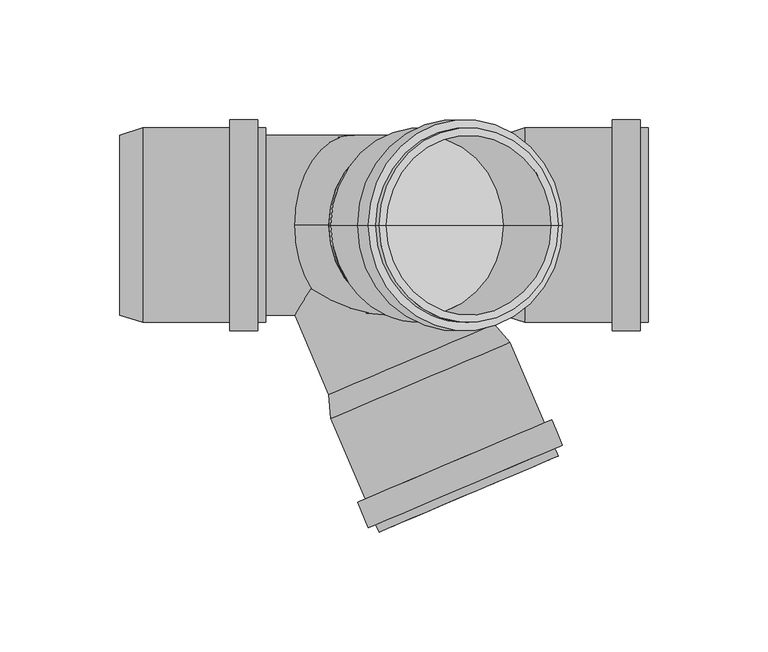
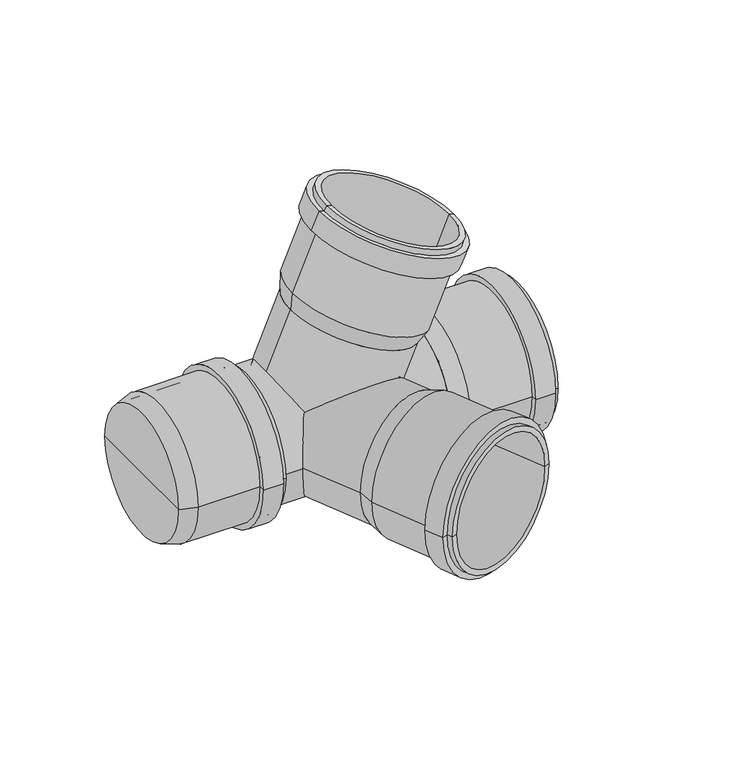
"""IFC4 building model written with IfcOpenShell, lengths in millimetres: pipe fitting geometry, pf_HTED : pf_HTED."""

from ifc_helpers import new_model, si_unit, point, frame, origin, origin_2d, place, context, project, spatial, polyline, circle_curve, trimmed, segment, composite_curve, outline, extrude, source, transform, mapped, element, save
from ifc_brep_helpers import plane_surface, cylinder_surface, revolved_surface, advanced_brep


def pipe_fitting_9d3bda9e(model_context):
    return source(origin(), model_context, "Body", "SolidModel", [
        advanced_brep(
        [(58.3144577, 0.0, 41.4063283), (-10.7234063, 0.0, 70.7111629), (-9.8650256, 0.0, 80.6672255), (64.8799685, 0.0, 48.9398579), (23.7955257, 0.0, 56.0587456), (85.0026216, 0.0, 96.3458578), (10.2576275, 0.0, 128.0732255), (13.1111926, 0.0, 126.861959), (82.1490566, 0.0, 97.5571243), (83.6741358, 0.0, 93.2161413), (8.9291417, 0.0, 124.943509), (86.8038523, 0.0, 91.8876555), (5.7994252, 0.0, 126.2719948), (82.2713712, 0.0, 81.2097992), (1.2669441, 0.0, 115.5941385), (79.1416547, 0.0, 82.538285), (4.3966606, 0.0, 114.2656527), (62.0264035, 0.0, 50.1511244), (-7.0114606, 0.0, 79.455959), (27.5074714, 0.0, 64.8035417)],
        [
            (0, 1, circle_curve(frame((23.7955257, 0.0, 56.0587456), z_axis=(0.3907311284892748, 0.0, 0.9205048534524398), x_axis=(-0.9205048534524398, 0.0, 0.3907311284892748)), 37.5)),
            (1, 2),
            (2, 3, circle_curve(frame((27.5074714, 0.0, 64.8035417), z_axis=(-0.3907311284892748, 0.0, -0.9205048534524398), x_axis=(-0.9205048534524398, 0.0, 0.3907311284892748)), 40.6)),
            (3, 0),
            (1, 0, circle_curve(frame((23.7955257, 0.0, 56.0587456), z_axis=(0.3907311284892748, 0.0, 0.9205048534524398), x_axis=(-0.9205048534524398, 0.0, 0.3907311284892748)), 37.5)),
            (3, 2, circle_curve(frame((27.5074714, 0.0, 64.8035417), z_axis=(-0.3907311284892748, 0.0, -0.9205048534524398), x_axis=(-0.9205048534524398, 0.0, 0.3907311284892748)), 40.6)),
            (4, 1),
            (0, 4),
            (5, 6, circle_curve(frame((47.6301246, 0.0, 112.2095416), z_axis=(0.3907311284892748, 0.0, 0.9205048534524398), x_axis=(-0.9205048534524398, 0.0, 0.3907311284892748)), 40.6)),
            (6, 7),
            (7, 8, circle_curve(frame((47.6301246, 0.0, 112.2095416), z_axis=(-0.3907311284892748, 0.0, -0.9205048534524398), x_axis=(-0.9205048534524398, 0.0, 0.3907311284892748)), 37.5)),
            (8, 5),
            (6, 5, circle_curve(frame((47.6301246, 0.0, 112.2095416), z_axis=(0.3907311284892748, 0.0, 0.9205048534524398), x_axis=(-0.9205048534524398, 0.0, 0.3907311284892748)), 40.6)),
            (8, 7, circle_curve(frame((47.6301246, 0.0, 112.2095416), z_axis=(-0.3907311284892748, 0.0, -0.9205048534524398), x_axis=(-0.9205048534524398, 0.0, 0.3907311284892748)), 37.5)),
            (9, 10, circle_curve(frame((46.3016387, 0.0, 109.0798251), z_axis=(0.3907311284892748, 0.0, 0.9205048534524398), x_axis=(-0.9205048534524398, 0.0, 0.3907311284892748)), 40.6)),
            (10, 6),
            (5, 9),
            (10, 9, circle_curve(frame((46.3016387, 0.0, 109.0798251), z_axis=(0.3907311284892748, 0.0, 0.9205048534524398), x_axis=(-0.9205048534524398, 0.0, 0.3907311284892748)), 40.6)),
            (11, 12, circle_curve(frame((46.3016387, 0.0, 109.0798251), z_axis=(0.3907311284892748, 0.0, 0.9205048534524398), x_axis=(-0.9205048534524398, 0.0, 0.3907311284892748)), 44.0)),
            (12, 10),
            (9, 11),
            (12, 11, circle_curve(frame((46.3016387, 0.0, 109.0798251), z_axis=(0.3907311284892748, 0.0, 0.9205048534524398), x_axis=(-0.9205048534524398, 0.0, 0.3907311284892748)), 44.0)),
            (13, 14, circle_curve(frame((41.7691576, 0.0, 98.4019688), z_axis=(0.3907311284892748, 0.0, 0.9205048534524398), x_axis=(-0.9205048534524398, 0.0, 0.3907311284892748)), 44.0)),
            (14, 12),
            (11, 13),
            (14, 13, circle_curve(frame((41.7691576, 0.0, 98.4019688), z_axis=(0.3907311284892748, 0.0, 0.9205048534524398), x_axis=(-0.9205048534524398, 0.0, 0.3907311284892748)), 44.0)),
            (15, 16, circle_curve(frame((41.7691576, 0.0, 98.4019688), z_axis=(0.3907311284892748, 0.0, 0.9205048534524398), x_axis=(-0.9205048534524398, 0.0, 0.3907311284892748)), 40.6)),
            (16, 14),
            (13, 15),
            (16, 15, circle_curve(frame((41.7691576, 0.0, 98.4019688), z_axis=(0.3907311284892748, 0.0, 0.9205048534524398), x_axis=(-0.9205048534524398, 0.0, 0.3907311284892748)), 40.6)),
            (2, 16),
            (15, 3),
            (17, 18, circle_curve(frame((27.5074714, 0.0, 64.8035417), z_axis=(0.3907311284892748, 0.0, 0.9205048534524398), x_axis=(-0.9205048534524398, 0.0, 0.3907311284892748)), 37.5)),
            (18, 19),
            (19, 17),
            (18, 17, circle_curve(frame((27.5074714, 0.0, 64.8035417), z_axis=(0.3907311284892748, 0.0, 0.9205048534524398), x_axis=(-0.9205048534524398, 0.0, 0.3907311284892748)), 37.5)),
            (7, 18),
            (17, 8),
        ],
        [
            revolved_surface(polyline([(-9.8650256, 0.0, 80.6672255), (-10.7234063, 0.0, 70.7111629)]), (23.7955257, 0.0, 56.0587456), (-0.3907311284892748, 0.0, -0.9205048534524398)),
            plane_surface(frame((23.7955257, 0.0, 56.0587456), z_axis=(-0.3907311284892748, 0.0, -0.9205048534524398), x_axis=(-0.9205048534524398, 0.0, 0.3907311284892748))),
            plane_surface(frame((47.6301246, 0.0, 112.2095416), z_axis=(0.3907311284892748, 0.0, 0.9205048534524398), x_axis=(-0.9205048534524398, 0.0, 0.3907311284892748))),
            cylinder_surface(frame((23.7955257, 0.0, 56.0587456), z_axis=(-0.3907311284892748, 0.0, -0.9205048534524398), x_axis=(-0.9205048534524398, 0.0, 0.3907311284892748)), 40.6),
            plane_surface(frame((46.3016387, 0.0, 109.0798251), z_axis=(0.3907311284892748, 0.0, 0.9205048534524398), x_axis=(-0.9205048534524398, 0.0, 0.3907311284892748))),
            cylinder_surface(frame((23.7955257, 0.0, 56.0587456), z_axis=(-0.3907311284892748, 0.0, -0.9205048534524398), x_axis=(-0.9205048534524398, 0.0, 0.3907311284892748)), 44.0),
            plane_surface(frame((41.7691576, 0.0, 98.4019688), z_axis=(-0.3907311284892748, 0.0, -0.9205048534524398), x_axis=(-0.9205048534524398, 0.0, 0.3907311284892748))),
            plane_surface(frame((27.5074714, 0.0, 64.8035417), z_axis=(0.3907311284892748, 0.0, 0.9205048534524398), x_axis=(-0.9205048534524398, 0.0, 0.3907311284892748))),
            revolved_surface(polyline([(-7.011460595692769, 0.0, 79.45595899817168), (13.111192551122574, 0.0, 126.86195902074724)]), (23.7955257, 0.0, 56.0587456), (-0.3907311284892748, 0.0, -0.9205048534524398)),
        ],
        [
            (0, [[1, 2, 3, 4]]),
            (0, [[5, -4, 6, -2]]),
            (1, [[7, -1, 8]]),
            (1, [[-8, -5, -7]]),
            (2, [[9, 10, 11, 12]]),
            (2, [[13, -12, 14, -10]]),
            (3, [[15, 16, -9, 17]]),
            (3, [[18, -17, -13, -16]]),
            (4, [[19, 20, -15, 21]]),
            (4, [[22, -21, -18, -20]]),
            (5, [[23, 24, -19, 25]]),
            (5, [[26, -25, -22, -24]]),
            (6, [[27, 28, -23, 29]]),
            (6, [[30, -29, -26, -28]]),
            (3, [[-3, 31, -27, 32]]),
            (3, [[-6, -32, -30, -31]]),
            (7, [[33, 34, 35]]),
            (7, [[36, -35, -34]]),
            (8, [[-11, 37, -33, 38]]),
            (8, [[-14, -38, -36, -37]]),
        ],
    ),
        advanced_brep(
        [(-10.7234063, -70.7111629, 0.0), (58.3144577, -41.4063283, 0.0), (64.8799685, -48.9398579, 0.0), (-9.8650256, -80.6672255, 0.0), (23.7955257, -56.0587456, 0.0), (10.2576275, -128.0732255, 0.0), (85.0026216, -96.3458578, 0.0), (82.1490566, -97.5571243, 0.0), (13.1111926, -126.861959, 0.0), (8.9291417, -124.943509, 0.0), (83.6741358, -93.2161413, 0.0), (5.7994252, -126.2719948, 0.0), (86.8038523, -91.8876555, 0.0), (1.2669441, -115.5941385, 0.0), (82.2713712, -81.2097992, 0.0), (4.3966606, -114.2656527, 0.0), (79.1416547, -82.538285, 0.0), (-7.0114606, -79.455959, 0.0), (62.0264035, -50.1511244, 0.0), (27.5074714, -64.8035417, 0.0)],
        [
            (0, 1, circle_curve(frame((23.7955257, -56.0587456, 0.0), z_axis=(0.3907311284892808, -0.9205048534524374, 0.0), x_axis=(0.9205048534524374, 0.3907311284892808, 0.0)), 37.5)),
            (1, 2),
            (2, 3, circle_curve(frame((27.5074714, -64.8035417, 0.0), z_axis=(-0.3907311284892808, 0.9205048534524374, 0.0), x_axis=(0.9205048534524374, 0.3907311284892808, 0.0)), 40.6)),
            (3, 0),
            (1, 0, circle_curve(frame((23.7955257, -56.0587456, 0.0), z_axis=(0.3907311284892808, -0.9205048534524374, 0.0), x_axis=(0.9205048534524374, 0.3907311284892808, 0.0)), 37.5)),
            (3, 2, circle_curve(frame((27.5074714, -64.8035417, 0.0), z_axis=(-0.3907311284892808, 0.9205048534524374, 0.0), x_axis=(0.9205048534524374, 0.3907311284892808, 0.0)), 40.6)),
            (4, 1),
            (0, 4),
            (5, 6, circle_curve(frame((47.6301246, -112.2095416, 0.0), z_axis=(0.3907311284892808, -0.9205048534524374, 0.0), x_axis=(0.9205048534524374, 0.3907311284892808, 0.0)), 40.6)),
            (6, 7),
            (7, 8, circle_curve(frame((47.6301246, -112.2095416, 0.0), z_axis=(-0.3907311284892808, 0.9205048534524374, 0.0), x_axis=(0.9205048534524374, 0.3907311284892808, 0.0)), 37.5)),
            (8, 5),
            (6, 5, circle_curve(frame((47.6301246, -112.2095416, 0.0), z_axis=(0.3907311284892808, -0.9205048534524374, 0.0), x_axis=(0.9205048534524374, 0.3907311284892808, 0.0)), 40.6)),
            (8, 7, circle_curve(frame((47.6301246, -112.2095416, 0.0), z_axis=(-0.3907311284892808, 0.9205048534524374, 0.0), x_axis=(0.9205048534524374, 0.3907311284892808, 0.0)), 37.5)),
            (9, 10, circle_curve(frame((46.3016387, -109.0798251, 0.0), z_axis=(0.3907311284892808, -0.9205048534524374, 0.0), x_axis=(0.9205048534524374, 0.3907311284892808, 0.0)), 40.6)),
            (10, 6),
            (5, 9),
            (10, 9, circle_curve(frame((46.3016387, -109.0798251, 0.0), z_axis=(0.3907311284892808, -0.9205048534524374, 0.0), x_axis=(0.9205048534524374, 0.3907311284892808, 0.0)), 40.6)),
            (11, 12, circle_curve(frame((46.3016387, -109.0798251, 0.0), z_axis=(0.3907311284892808, -0.9205048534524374, 0.0), x_axis=(0.9205048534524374, 0.3907311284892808, 0.0)), 44.0)),
            (12, 10),
            (9, 11),
            (12, 11, circle_curve(frame((46.3016387, -109.0798251, 0.0), z_axis=(0.3907311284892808, -0.9205048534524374, 0.0), x_axis=(0.9205048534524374, 0.3907311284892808, 0.0)), 44.0)),
            (13, 14, circle_curve(frame((41.7691576, -98.4019688, 0.0), z_axis=(0.3907311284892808, -0.9205048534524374, 0.0), x_axis=(0.9205048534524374, 0.3907311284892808, 0.0)), 44.0)),
            (14, 12),
            (11, 13),
            (14, 13, circle_curve(frame((41.7691576, -98.4019688, 0.0), z_axis=(0.3907311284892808, -0.9205048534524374, 0.0), x_axis=(0.9205048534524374, 0.3907311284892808, 0.0)), 44.0)),
            (15, 16, circle_curve(frame((41.7691576, -98.4019688, 0.0), z_axis=(0.3907311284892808, -0.9205048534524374, 0.0), x_axis=(0.9205048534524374, 0.3907311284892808, 0.0)), 40.6)),
            (16, 14),
            (13, 15),
            (16, 15, circle_curve(frame((41.7691576, -98.4019688, 0.0), z_axis=(0.3907311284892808, -0.9205048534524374, 0.0), x_axis=(0.9205048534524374, 0.3907311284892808, 0.0)), 40.6)),
            (2, 16),
            (15, 3),
            (17, 18, circle_curve(frame((27.5074714, -64.8035417, 0.0), z_axis=(0.3907311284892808, -0.9205048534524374, 0.0), x_axis=(0.9205048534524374, 0.3907311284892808, 0.0)), 37.5)),
            (18, 19),
            (19, 17),
            (18, 17, circle_curve(frame((27.5074714, -64.8035417, 0.0), z_axis=(0.3907311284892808, -0.9205048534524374, 0.0), x_axis=(0.9205048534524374, 0.3907311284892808, 0.0)), 37.5)),
            (7, 18),
            (17, 8),
        ],
        [
            revolved_surface(polyline([(64.8799685, -48.9398579, 0.0), (58.3144577, -41.4063283, 0.0)]), (23.7955257, -56.0587456, 0.0), (-0.3907311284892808, 0.9205048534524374, 0.0)),
            plane_surface(frame((23.7955257, -56.0587456, 0.0), z_axis=(-0.3907311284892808, 0.9205048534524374, 0.0), x_axis=(0.9205048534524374, 0.3907311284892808, 0.0))),
            plane_surface(frame((47.6301246, -112.2095416, 0.0), z_axis=(0.3907311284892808, -0.9205048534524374, 0.0), x_axis=(0.9205048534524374, 0.3907311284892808, 0.0))),
            cylinder_surface(frame((23.7955257, -56.0587456, 0.0), z_axis=(-0.3907311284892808, 0.9205048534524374, 0.0), x_axis=(0.9205048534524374, 0.3907311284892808, 0.0)), 40.6),
            plane_surface(frame((46.3016387, -109.0798251, 0.0), z_axis=(0.3907311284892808, -0.9205048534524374, 0.0), x_axis=(0.9205048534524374, 0.3907311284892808, 0.0))),
            cylinder_surface(frame((23.7955257, -56.0587456, 0.0), z_axis=(-0.3907311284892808, 0.9205048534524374, 0.0), x_axis=(0.9205048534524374, 0.3907311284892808, 0.0)), 44.0),
            plane_surface(frame((41.7691576, -98.4019688, 0.0), z_axis=(-0.3907311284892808, 0.9205048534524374, 0.0), x_axis=(0.9205048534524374, 0.3907311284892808, 0.0))),
            plane_surface(frame((27.5074714, -64.8035417, 0.0), z_axis=(0.3907311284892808, -0.9205048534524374, 0.0), x_axis=(0.9205048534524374, 0.3907311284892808, 0.0))),
            revolved_surface(polyline([(62.02640341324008, -50.151124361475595, 0.0), (82.14905656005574, -97.55712438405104, 0.0)]), (23.7955257, -56.0587456, 0.0), (-0.3907311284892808, 0.9205048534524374, 0.0)),
        ],
        [
            (0, [[1, 2, 3, 4]]),
            (0, [[5, -4, 6, -2]]),
            (1, [[7, -1, 8]]),
            (1, [[-8, -5, -7]]),
            (2, [[9, 10, 11, 12]]),
            (2, [[13, -12, 14, -10]]),
            (3, [[15, 16, -9, 17]]),
            (3, [[18, -17, -13, -16]]),
            (4, [[19, 20, -15, 21]]),
            (4, [[22, -21, -18, -20]]),
            (5, [[23, 24, -19, 25]]),
            (5, [[26, -25, -22, -24]]),
            (6, [[27, 28, -23, 29]]),
            (6, [[30, -29, -26, -28]]),
            (3, [[-3, 31, -27, 32]]),
            (3, [[-6, -32, -30, -31]]),
            (7, [[33, 34, 35]]),
            (7, [[36, -35, -34]]),
            (8, [[-11, 37, -33, 38]]),
            (8, [[-14, -38, -36, -37]]),
        ],
    ),
        advanced_brep(
        [(61.6, -37.5, 0.0), (61.6, 37.5, 0.0), (71.1, 40.6, 0.0), (71.1, -40.6, 0.0), (61.6, 0.0, 0.0), (122.6, -40.6, 0.0), (122.6, 40.6, 0.0), (122.6, 37.5, 0.0), (122.6, -37.5, 0.0), (119.2, -40.6, 0.0), (119.2, 40.6, 0.0), (119.2, -44.0, 0.0), (119.2, 44.0, 0.0), (107.6, -44.0, 0.0), (107.6, 44.0, 0.0), (107.6, -40.6, 0.0), (107.6, 40.6, 0.0), (71.1, -37.5, 0.0), (71.1, 37.5, 0.0), (71.1, 0.0, 0.0)],
        [
            (0, 1, circle_curve(frame((61.6, 0.0, 0.0), z_axis=(1.0, 0.0, 0.0), x_axis=(0.0, 1.0, 0.0)), 37.5)),
            (1, 2),
            (2, 3, circle_curve(frame((71.1, 0.0, 0.0), z_axis=(-1.0, 0.0, 0.0), x_axis=(0.0, 1.0, 0.0)), 40.6)),
            (3, 0),
            (1, 0, circle_curve(frame((61.6, 0.0, 0.0), z_axis=(1.0, 0.0, 0.0), x_axis=(0.0, 1.0, 0.0)), 37.5)),
            (3, 2, circle_curve(frame((71.1, 0.0, 0.0), z_axis=(-1.0, 0.0, 0.0), x_axis=(0.0, 1.0, 0.0)), 40.6)),
            (4, 1),
            (0, 4),
            (5, 6, circle_curve(frame((122.6, 0.0, 0.0), z_axis=(1.0, 0.0, 0.0), x_axis=(0.0, 1.0, 0.0)), 40.6)),
            (6, 7),
            (7, 8, circle_curve(frame((122.6, 0.0, 0.0), z_axis=(-1.0, 0.0, 0.0), x_axis=(0.0, 1.0, 0.0)), 37.5)),
            (8, 5),
            (6, 5, circle_curve(frame((122.6, 0.0, 0.0), z_axis=(1.0, 0.0, 0.0), x_axis=(0.0, 1.0, 0.0)), 40.6)),
            (8, 7, circle_curve(frame((122.6, 0.0, 0.0), z_axis=(-1.0, 0.0, 0.0), x_axis=(0.0, 1.0, 0.0)), 37.5)),
            (9, 10, circle_curve(frame((119.2, 0.0, 0.0), z_axis=(1.0, 0.0, 0.0), x_axis=(0.0, 1.0, 0.0)), 40.6)),
            (10, 6),
            (5, 9),
            (10, 9, circle_curve(frame((119.2, 0.0, 0.0), z_axis=(1.0, 0.0, 0.0), x_axis=(0.0, 1.0, 0.0)), 40.6)),
            (11, 12, circle_curve(frame((119.2, 0.0, 0.0), z_axis=(1.0, 0.0, 0.0), x_axis=(0.0, 1.0, 0.0)), 44.0)),
            (12, 10),
            (9, 11),
            (12, 11, circle_curve(frame((119.2, 0.0, 0.0), z_axis=(1.0, 0.0, 0.0), x_axis=(0.0, 1.0, 0.0)), 44.0)),
            (13, 14, circle_curve(frame((107.6, 0.0, 0.0), z_axis=(1.0, 0.0, 0.0), x_axis=(0.0, 1.0, 0.0)), 44.0)),
            (14, 12),
            (11, 13),
            (14, 13, circle_curve(frame((107.6, 0.0, 0.0), z_axis=(1.0, 0.0, 0.0), x_axis=(0.0, 1.0, 0.0)), 44.0)),
            (15, 16, circle_curve(frame((107.6, 0.0, 0.0), z_axis=(1.0, 0.0, 0.0), x_axis=(0.0, 1.0, 0.0)), 40.6)),
            (16, 14),
            (13, 15),
            (16, 15, circle_curve(frame((107.6, 0.0, 0.0), z_axis=(1.0, 0.0, 0.0), x_axis=(0.0, 1.0, 0.0)), 40.6)),
            (2, 16),
            (15, 3),
            (17, 18, circle_curve(frame((71.1, 0.0, 0.0), z_axis=(1.0, 0.0, 0.0), x_axis=(0.0, 1.0, 0.0)), 37.5)),
            (18, 19),
            (19, 17),
            (18, 17, circle_curve(frame((71.1, 0.0, 0.0), z_axis=(1.0, 0.0, 0.0), x_axis=(0.0, 1.0, 0.0)), 37.5)),
            (7, 18),
            (17, 8),
        ],
        [
            revolved_surface(polyline([(71.1, 40.6, 0.0), (61.6, 37.5, 0.0)]), (61.6, 0.0, 0.0), (-1.0, 0.0, 0.0)),
            plane_surface(frame((61.6, 0.0, 0.0), z_axis=(-1.0, 0.0, 0.0), x_axis=(0.0, 1.0, 0.0))),
            plane_surface(frame((122.6, 0.0, 0.0), z_axis=(1.0, 0.0, 0.0), x_axis=(0.0, 1.0, 0.0))),
            cylinder_surface(frame((61.6, 0.0, 0.0), z_axis=(-1.0, 0.0, 0.0), x_axis=(0.0, 1.0, 0.0)), 40.6),
            plane_surface(frame((119.2, 0.0, 0.0), z_axis=(1.0, 0.0, 0.0), x_axis=(0.0, 1.0, 0.0))),
            cylinder_surface(frame((61.6, 0.0, 0.0), z_axis=(-1.0, 0.0, 0.0), x_axis=(0.0, 1.0, 0.0)), 44.0),
            plane_surface(frame((107.6, 0.0, 0.0), z_axis=(-1.0, 0.0, 0.0), x_axis=(0.0, 1.0, 0.0))),
            plane_surface(frame((71.1, 0.0, 0.0), z_axis=(1.0, 0.0, 0.0), x_axis=(0.0, 1.0, 0.0))),
            revolved_surface(polyline([(71.1, 37.5, 0.0), (122.6, 37.5, 0.0)]), (61.6, 0.0, 0.0), (-1.0, 0.0, 0.0)),
        ],
        [
            (0, [[1, 2, 3, 4]]),
            (0, [[5, -4, 6, -2]]),
            (1, [[7, -1, 8]]),
            (1, [[-8, -5, -7]]),
            (2, [[9, 10, 11, 12]]),
            (2, [[13, -12, 14, -10]]),
            (3, [[15, 16, -9, 17]]),
            (3, [[18, -17, -13, -16]]),
            (4, [[19, 20, -15, 21]]),
            (4, [[22, -21, -18, -20]]),
            (5, [[23, 24, -19, 25]]),
            (5, [[26, -25, -22, -24]]),
            (6, [[27, 28, -23, 29]]),
            (6, [[30, -29, -26, -28]]),
            (3, [[-3, 31, -27, 32]]),
            (3, [[-6, -32, -30, -31]]),
            (7, [[33, 34, 35]]),
            (7, [[36, -35, -34]]),
            (8, [[-11, 37, -33, 38]]),
            (8, [[-14, -38, -36, -37]]),
        ],
    ),
        advanced_brep(
        [(-98.0, -37.5, 0.0), (-98.0, 37.5, 0.0), (-88.5, 40.6, 0.0), (-88.5, -40.6, 0.0), (-98.0, 0.0, 0.0), (-37.0, -40.6, 0.0), (-37.0, 40.6, 0.0), (-37.0, 37.5, 0.0), (-37.0, -37.5, 0.0), (-40.4, -40.6, 0.0), (-40.4, 40.6, 0.0), (-40.4, -44.0, 0.0), (-40.4, 44.0, 0.0), (-52.0, -44.0, 0.0), (-52.0, 44.0, 0.0), (-52.0, -40.6, 0.0), (-52.0, 40.6, 0.0), (-88.5, -37.5, 0.0), (-88.5, 37.5, 0.0), (-88.5, 0.0, 0.0)],
        [
            (0, 1, circle_curve(frame((-98.0, 0.0, 0.0), z_axis=(1.0, 0.0, 0.0), x_axis=(0.0, 1.0, 0.0)), 37.5)),
            (1, 2),
            (2, 3, circle_curve(frame((-88.5, 0.0, 0.0), z_axis=(-1.0, 0.0, 0.0), x_axis=(0.0, 1.0, 0.0)), 40.6)),
            (3, 0),
            (1, 0, circle_curve(frame((-98.0, 0.0, 0.0), z_axis=(1.0, 0.0, 0.0), x_axis=(0.0, 1.0, 0.0)), 37.5)),
            (3, 2, circle_curve(frame((-88.5, 0.0, 0.0), z_axis=(-1.0, 0.0, 0.0), x_axis=(0.0, 1.0, 0.0)), 40.6)),
            (4, 1),
            (0, 4),
            (5, 6, circle_curve(frame((-37.0, 0.0, 0.0), z_axis=(1.0, 0.0, 0.0), x_axis=(0.0, 1.0, 0.0)), 40.6)),
            (6, 7),
            (7, 8, circle_curve(frame((-37.0, 0.0, 0.0), z_axis=(-1.0, 0.0, 0.0), x_axis=(0.0, 1.0, 0.0)), 37.5)),
            (8, 5),
            (6, 5, circle_curve(frame((-37.0, 0.0, 0.0), z_axis=(1.0, 0.0, 0.0), x_axis=(0.0, 1.0, 0.0)), 40.6)),
            (8, 7, circle_curve(frame((-37.0, 0.0, 0.0), z_axis=(-1.0, 0.0, 0.0), x_axis=(0.0, 1.0, 0.0)), 37.5)),
            (9, 10, circle_curve(frame((-40.4, 0.0, 0.0), z_axis=(1.0, 0.0, 0.0), x_axis=(0.0, 1.0, 0.0)), 40.6)),
            (10, 6),
            (5, 9),
            (10, 9, circle_curve(frame((-40.4, 0.0, 0.0), z_axis=(1.0, 0.0, 0.0), x_axis=(0.0, 1.0, 0.0)), 40.6)),
            (11, 12, circle_curve(frame((-40.4, 0.0, 0.0), z_axis=(1.0, 0.0, 0.0), x_axis=(0.0, 1.0, 0.0)), 44.0)),
            (12, 10),
            (9, 11),
            (12, 11, circle_curve(frame((-40.4, 0.0, 0.0), z_axis=(1.0, 0.0, 0.0), x_axis=(0.0, 1.0, 0.0)), 44.0)),
            (13, 14, circle_curve(frame((-52.0, 0.0, 0.0), z_axis=(1.0, 0.0, 0.0), x_axis=(0.0, 1.0, 0.0)), 44.0)),
            (14, 12),
            (11, 13),
            (14, 13, circle_curve(frame((-52.0, 0.0, 0.0), z_axis=(1.0, 0.0, 0.0), x_axis=(0.0, 1.0, 0.0)), 44.0)),
            (15, 16, circle_curve(frame((-52.0, 0.0, 0.0), z_axis=(1.0, 0.0, 0.0), x_axis=(0.0, 1.0, 0.0)), 40.6)),
            (16, 14),
            (13, 15),
            (16, 15, circle_curve(frame((-52.0, 0.0, 0.0), z_axis=(1.0, 0.0, 0.0), x_axis=(0.0, 1.0, 0.0)), 40.6)),
            (2, 16),
            (15, 3),
            (17, 18, circle_curve(frame((-88.5, 0.0, 0.0), z_axis=(1.0, 0.0, 0.0), x_axis=(0.0, 1.0, 0.0)), 37.5)),
            (18, 19),
            (19, 17),
            (18, 17, circle_curve(frame((-88.5, 0.0, 0.0), z_axis=(1.0, 0.0, 0.0), x_axis=(0.0, 1.0, 0.0)), 37.5)),
            (7, 18),
            (17, 8),
        ],
        [
            revolved_surface(polyline([(-88.5, 40.6, 0.0), (-98.0, 37.5, 0.0)]), (-98.0, 0.0, 0.0), (-1.0, 0.0, 0.0)),
            plane_surface(frame((-98.0, 0.0, 0.0), z_axis=(-1.0, 0.0, 0.0), x_axis=(0.0, 1.0, 0.0))),
            plane_surface(frame((-37.0, 0.0, 0.0), z_axis=(1.0, 0.0, 0.0), x_axis=(0.0, 1.0, 0.0))),
            cylinder_surface(frame((-98.0, 0.0, 0.0), z_axis=(-1.0, 0.0, 0.0), x_axis=(0.0, 1.0, 0.0)), 40.6),
            plane_surface(frame((-40.4, 0.0, 0.0), z_axis=(1.0, 0.0, 0.0), x_axis=(0.0, 1.0, 0.0))),
            cylinder_surface(frame((-98.0, 0.0, 0.0), z_axis=(-1.0, 0.0, 0.0), x_axis=(0.0, 1.0, 0.0)), 44.0),
            plane_surface(frame((-52.0, 0.0, 0.0), z_axis=(-1.0, 0.0, 0.0), x_axis=(0.0, 1.0, 0.0))),
            plane_surface(frame((-88.5, 0.0, 0.0), z_axis=(1.0, 0.0, 0.0), x_axis=(0.0, 1.0, 0.0))),
            revolved_surface(polyline([(-88.5, 37.5, 0.0), (-37.0, 37.5, 0.0)]), (-98.0, 0.0, 0.0), (-1.0, 0.0, 0.0)),
        ],
        [
            (0, [[1, 2, 3, 4]]),
            (0, [[5, -4, 6, -2]]),
            (1, [[7, -1, 8]]),
            (1, [[-8, -5, -7]]),
            (2, [[9, 10, 11, 12]]),
            (2, [[13, -12, 14, -10]]),
            (3, [[15, 16, -9, 17]]),
            (3, [[18, -17, -13, -16]]),
            (4, [[19, 20, -15, 21]]),
            (4, [[22, -21, -18, -20]]),
            (5, [[23, 24, -19, 25]]),
            (5, [[26, -25, -22, -24]]),
            (6, [[27, 28, -23, 29]]),
            (6, [[30, -29, -26, -28]]),
            (3, [[-3, 31, -27, 32]]),
            (3, [[-6, -32, -30, -31]]),
            (7, [[33, 34, 35]]),
            (7, [[36, -35, -34]]),
            (8, [[-11, 37, -33, 38]]),
            (8, [[-14, -38, -36, -37]]),
        ],
    ),
        extrude(outline(composite_curve([segment(trimmed(circle_curve(origin_2d(), 37.5), [point((0.0, 37.5))], [point((0.0, -37.5))], False, "CARTESIAN"), True, "CONTINUOUS"), segment(trimmed(circle_curve(origin_2d(), 37.5), [point((0.0, -37.5))], [point((0.0, 37.5))], False, "CARTESIAN"), True, "CONTINUOUS")], self_intersect=False)), frame((0.0, 0.0, 0.0), z_axis=(0.3907311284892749, 0.0, 0.9205048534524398), x_axis=(0.0, -1.0, 0.0)), (0.0, 0.0, 1.0), 60.9),
        extrude(outline(composite_curve([segment(trimmed(circle_curve(origin_2d(), 37.5), [point((0.0, -37.5))], [point((0.0, 37.5))], False, "CARTESIAN"), True, "CONTINUOUS"), segment(trimmed(circle_curve(origin_2d(), 37.5), [point((0.0, 37.5))], [point((0.0, -37.5))], False, "CARTESIAN"), True, "CONTINUOUS")], self_intersect=False)), frame((23.7955257, -56.0587456, 0.0), z_axis=(-0.39073112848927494, 0.9205048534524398, 0.0), x_axis=(0.0, 0.0, 1.0)), (0.0, 0.0, 1.0), 60.9),
        extrude(outline(composite_curve([segment(trimmed(circle_curve(origin_2d(), 37.5), [point((-37.5, 0.0))], [point((37.5, 0.0))], False, "CARTESIAN"), True, "CONTINUOUS"), segment(trimmed(circle_curve(origin_2d(), 37.5), [point((37.5, 0.0))], [point((-37.5, 0.0))], False, "CARTESIAN"), True, "CONTINUOUS")], self_intersect=False)), frame((-88.5, 0.0, 0.0), z_axis=(1.0, 0.0, 0.0), x_axis=(0.0, 1.0, 0.0)), (0.0, 0.0, 1.0), 150.1),
    ])


if __name__ == "__main__":
    model = new_model("IFC4")
    model_context = context("Model", 3, world=origin())
    ifc_project = project(units=[si_unit("LENGTHUNIT", "METRE", prefix="MILLI")], contexts=[model_context])
    site = spatial("IfcSite", under=ifc_project)
    building = spatial("IfcBuilding", under=site)
    placement = place(None, origin())
    pipe_fitting_shape = pipe_fitting_9d3bda9e(model_context)
    element("IfcPipeFitting", 1, ObjectType="pf_HTED : pf_HTED", at=placement, inside=building, context=model_context, shape_type="MappedRepresentation", body=[
        mapped(pipe_fitting_shape, transform((0.0, 0.0, 0.0), x_axis=(1.0, 0.0, 0.0), y_axis=(0.0, 1.0, 0.0), z_axis=(0.0, 0.0, 1.0))),
    ])
    save(model, "model.ifc")
